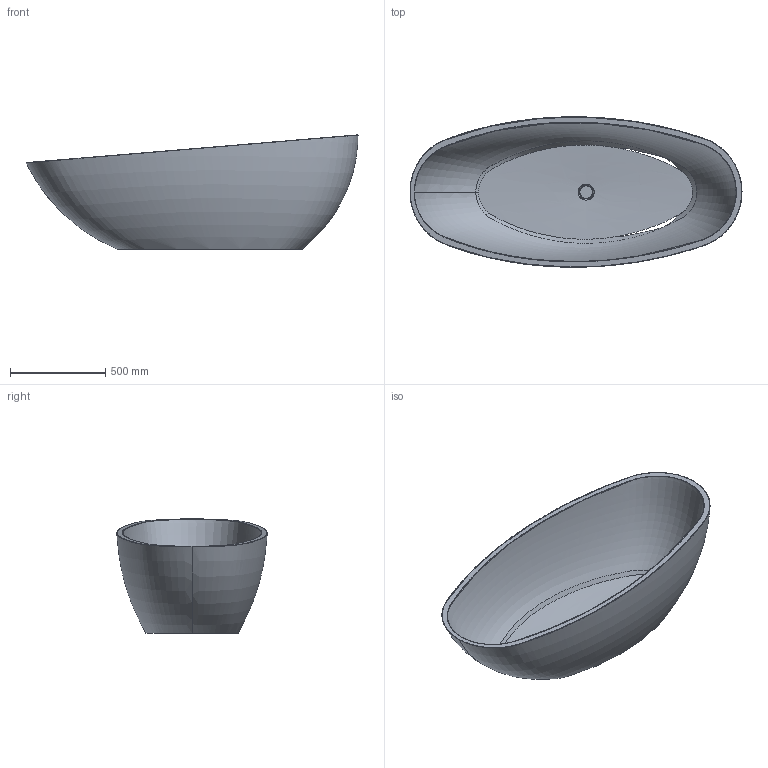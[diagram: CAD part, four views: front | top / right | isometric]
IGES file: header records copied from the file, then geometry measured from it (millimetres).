
Global section: file name: D:\Desktop\GIOVANNI\SCHEDE PRODOTTO\VASCHE\VASCHE FREESTANDING\RUBY INFINITY\3D\RUBY INFINITY.igs; native system: Rhinoceros ( Jan 17 2018 ); preprocessor: Trout Lake IGES 012 Jan 17 2018; date: 230531.120516; units: millimetre
Bounding box: 1743.95 x 790.29 x 599.91 mm (x, y, z)
Surface area: 4256221.2 mm2 (no closed solid volume)
Topology: 0 solids, 0 shells, 11 faces, 2297 edges, 2288 vertices
Faces by surface type: bspline 11
